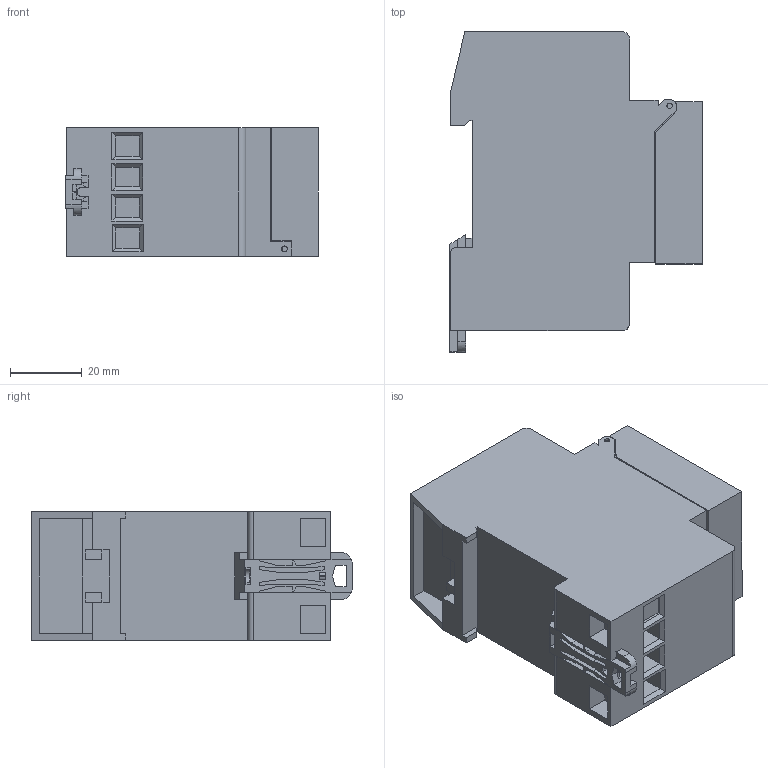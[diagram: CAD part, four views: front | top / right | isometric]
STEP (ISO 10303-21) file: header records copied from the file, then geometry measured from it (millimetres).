
FILE_DESCRIPTION (( 'STEP AP214' ), '1' );
FILE_NAME ('MAE-D16-001-A230__upr.step', '2014-09-05T06:24:54', ( '' ), ( '' ), 'SwSTEP 2.0', 'SolidWorks 2011', '' );
FILE_SCHEMA (( 'AUTOMOTIVE_DESIGN' ));
Length unit declared in the file: millimetre
Products named in the file (1): MAE-D16-001-A230__upr
Bounding box: 70.19 x 89 x 35.75 mm (x, y, z)
Volume: 137389.3 mm3; surface area: 36306.2 mm2
Topology: 3 solids, 3 shells, 627 faces, 1719 edges, 1121 vertices
Faces by surface type: plane 511, cylinder 84, torus 22, sphere 10
Entity records: 26646 total; most frequent: CARTESIAN_POINT 3714, ORIENTED_EDGE 3438, DIRECTION 3153, EDGE_CURVE 1719, VECTOR 1377, LINE 1377, VERTEX_POINT 1121, AXIS2_PLACEMENT_3D 888
